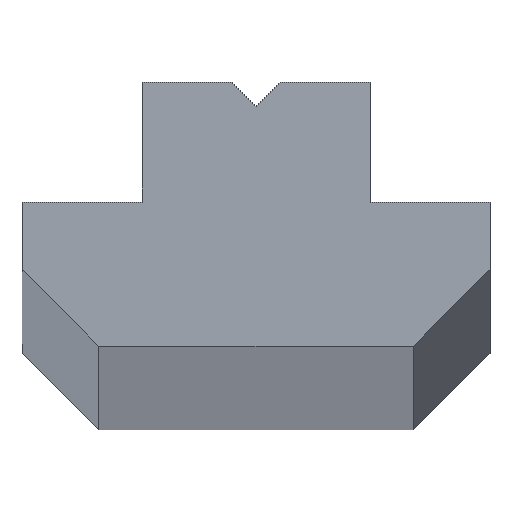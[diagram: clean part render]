
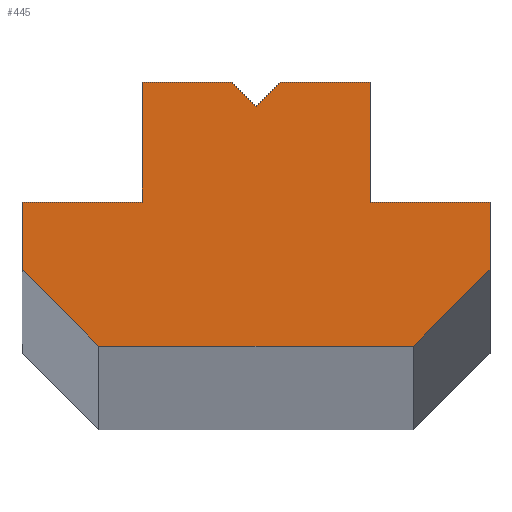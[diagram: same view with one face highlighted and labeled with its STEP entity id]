
A CAD part, top view. The second image highlights one B-rep face of the part: STEP entity #445.
In plain terms, the highlighted planar face has unit normal (0, 0, 1).
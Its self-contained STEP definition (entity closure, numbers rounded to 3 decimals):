
#105=DIRECTION('',(-0.707,0.707,0.));
#106=VECTOR('',#105,1.414);
#107=CARTESIAN_POINT('',(0.,4.,2000.));
#108=LINE('',#107,#106);
#109=DIRECTION('',(-0.707,-0.707,0.));
#110=VECTOR('',#109,1.414);
#111=CARTESIAN_POINT('',(1.,5.,2000.));
#112=LINE('',#111,#110);
#113=DIRECTION('',(-1.,0.,0.));
#114=VECTOR('',#113,3.75);
#115=CARTESIAN_POINT('',(4.75,5.,2000.));
#116=LINE('',#115,#114);
#117=DIRECTION('',(0.,1.,0.));
#118=VECTOR('',#117,5.);
#119=CARTESIAN_POINT('',(4.75,0.,2000.));
#120=LINE('',#119,#118);
#121=DIRECTION('',(-1.,0.,0.));
#122=VECTOR('',#121,5.);
#123=CARTESIAN_POINT('',(9.75,0.,2000.));
#124=LINE('',#123,#122);
#125=DIRECTION('',(0.,1.,0.));
#126=VECTOR('',#125,2.8);
#127=CARTESIAN_POINT('',(9.75,-2.8,2000.));
#128=LINE('',#127,#126);
#129=DIRECTION('',(0.707,0.707,0.));
#130=VECTOR('',#129,4.525);
#131=CARTESIAN_POINT('',(6.55,-6.,2000.));
#132=LINE('',#131,#130);
#133=DIRECTION('',(1.,0.,0.));
#134=VECTOR('',#133,13.1);
#135=CARTESIAN_POINT('',(-6.55,-6.,2000.));
#136=LINE('',#135,#134);
#137=DIRECTION('',(0.707,-0.707,0.));
#138=VECTOR('',#137,4.525);
#139=CARTESIAN_POINT('',(-9.75,-2.8,2000.));
#140=LINE('',#139,#138);
#141=DIRECTION('',(0.,-1.,0.));
#142=VECTOR('',#141,2.8);
#143=CARTESIAN_POINT('',(-9.75,0.,2000.));
#144=LINE('',#143,#142);
#145=DIRECTION('',(-1.,0.,0.));
#146=VECTOR('',#145,5.);
#147=CARTESIAN_POINT('',(-4.75,0.,2000.));
#148=LINE('',#147,#146);
#149=DIRECTION('',(0.,-1.,0.));
#150=VECTOR('',#149,5.);
#151=CARTESIAN_POINT('',(-4.75,5.,2000.));
#152=LINE('',#151,#150);
#153=DIRECTION('',(-1.,0.,0.));
#154=VECTOR('',#153,3.75);
#155=CARTESIAN_POINT('',(-1.,5.,2000.));
#156=LINE('',#155,#154);
#183=CARTESIAN_POINT('',(0.,4.,2000.));
#184=CARTESIAN_POINT('',(-1.,5.,2000.));
#185=VERTEX_POINT('',#183);
#186=VERTEX_POINT('',#184);
#187=CARTESIAN_POINT('',(-4.75,5.,2000.));
#188=VERTEX_POINT('',#187);
#189=CARTESIAN_POINT('',(-4.75,0.,2000.));
#190=VERTEX_POINT('',#189);
#191=CARTESIAN_POINT('',(-9.75,0.,2000.));
#192=VERTEX_POINT('',#191);
#193=CARTESIAN_POINT('',(-9.75,-2.8,2000.));
#194=VERTEX_POINT('',#193);
#195=CARTESIAN_POINT('',(-6.55,-6.,2000.));
#196=VERTEX_POINT('',#195);
#197=CARTESIAN_POINT('',(6.55,-6.,2000.));
#198=VERTEX_POINT('',#197);
#199=CARTESIAN_POINT('',(9.75,-2.8,2000.));
#200=VERTEX_POINT('',#199);
#201=CARTESIAN_POINT('',(9.75,0.,2000.));
#202=VERTEX_POINT('',#201);
#203=CARTESIAN_POINT('',(4.75,0.,2000.));
#204=VERTEX_POINT('',#203);
#205=CARTESIAN_POINT('',(4.75,5.,2000.));
#206=VERTEX_POINT('',#205);
#207=CARTESIAN_POINT('',(1.,5.,2000.));
#208=VERTEX_POINT('',#207);
#425=CARTESIAN_POINT('',(0.,0.,2000.));
#426=DIRECTION('',(0.,0.,1.));
#427=DIRECTION('',(1.,0.,0.));
#428=AXIS2_PLACEMENT_3D('',#425,#426,#427);
#429=PLANE('',#428);
#430=ORIENTED_EDGE('',*,*,#251,.F.);
#431=ORIENTED_EDGE('',*,*,#266,.F.);
#432=ORIENTED_EDGE('',*,*,#280,.F.);
#433=ORIENTED_EDGE('',*,*,#294,.F.);
#434=ORIENTED_EDGE('',*,*,#308,.F.);
#435=ORIENTED_EDGE('',*,*,#322,.F.);
#436=ORIENTED_EDGE('',*,*,#336,.F.);
#437=ORIENTED_EDGE('',*,*,#350,.F.);
#438=ORIENTED_EDGE('',*,*,#364,.F.);
#439=ORIENTED_EDGE('',*,*,#378,.F.);
#440=ORIENTED_EDGE('',*,*,#392,.F.);
#441=ORIENTED_EDGE('',*,*,#406,.F.);
#442=ORIENTED_EDGE('',*,*,#419,.F.);
#443=EDGE_LOOP('',(#430,#431,#432,#433,#434,#435,#436,#437,#438,#439,#440,#441,
#442));
#444=FACE_OUTER_BOUND('',#443,.F.);
#445=ADVANCED_FACE('',(#444),#429,.T.);
#251=EDGE_CURVE('',#185,#186,#108,.T.);
#266=EDGE_CURVE('',#208,#185,#112,.T.);
#280=EDGE_CURVE('',#206,#208,#116,.T.);
#294=EDGE_CURVE('',#204,#206,#120,.T.);
#308=EDGE_CURVE('',#202,#204,#124,.T.);
#322=EDGE_CURVE('',#200,#202,#128,.T.);
#336=EDGE_CURVE('',#198,#200,#132,.T.);
#350=EDGE_CURVE('',#196,#198,#136,.T.);
#364=EDGE_CURVE('',#194,#196,#140,.T.);
#378=EDGE_CURVE('',#192,#194,#144,.T.);
#392=EDGE_CURVE('',#190,#192,#148,.T.);
#406=EDGE_CURVE('',#188,#190,#152,.T.);
#419=EDGE_CURVE('',#186,#188,#156,.T.);
